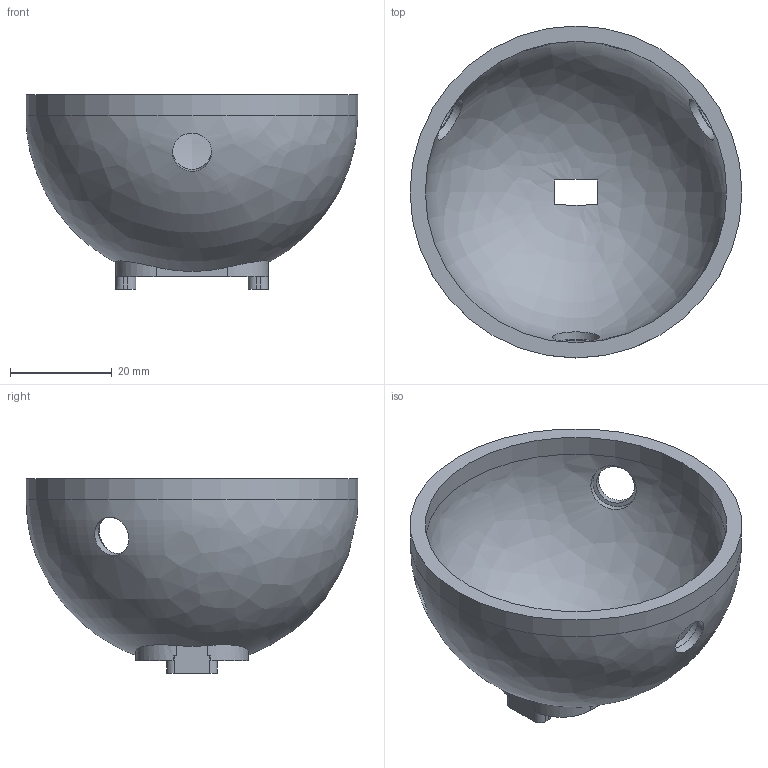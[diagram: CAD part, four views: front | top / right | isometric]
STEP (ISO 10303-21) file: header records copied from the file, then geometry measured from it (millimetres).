
FILE_DESCRIPTION(('Open CASCADE Model'),'2;1');
FILE_NAME('Open CASCADE Shape Model','2026-05-31T19:43:50',('Author'),( 'Open CASCADE'),'Open CASCADE STEP processor 7.6','Open CASCADE 7.6' ,'Unknown');
FILE_SCHEMA(('AP242_MANAGED_MODEL_BASED_3D_ENGINEERING_MIM_LF. {1 0 10303 442 1 1 4 }'));
Length unit declared in the file: millimetre
Products named in the file (1): Open CASCADE STEP translator 7.6 14
Bounding box: 65.15 x 65.15 x 38.17 mm (x, y, z)
Volume: 20210.2 mm3; surface area: 14662.2 mm2
Topology: 1 solids, 1 shells, 73 faces, 200 edges, 132 vertices
Faces by surface type: plane 35, cylinder 28, bspline 4, revolution 2, sphere 2, cone 2
Full cylindrical faces by diameter (mm): 2.05 x2, 7.7 x3, 9.2 x3, 59.15 x1, 65.15 x1
Entity records: 7955 total; most frequent: CARTESIAN_POINT 4017, DIRECTION 726, ORIENTED_EDGE 396, PCURVE 396, DEFINITIONAL_REPRESENTATION 396, LINE 390, VECTOR 390, EDGE_CURVE 198
